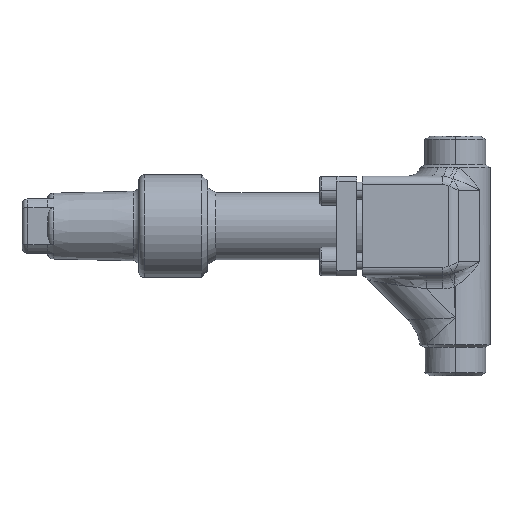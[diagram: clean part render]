
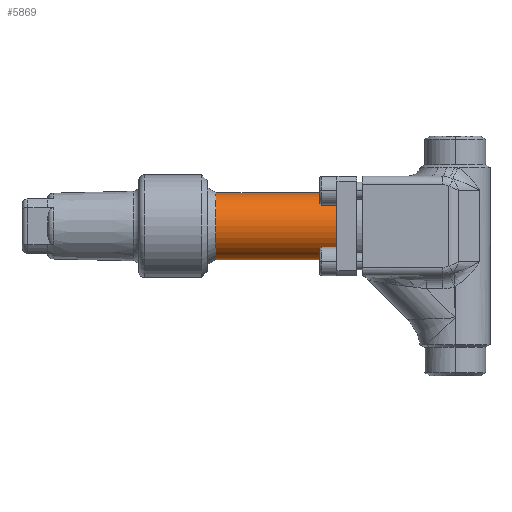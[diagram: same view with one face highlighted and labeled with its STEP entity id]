
A CAD part, left-side view. The second image highlights one B-rep face of the part: STEP entity #5869.
In plain terms, the highlighted cylindrical face has radius 11.75 mm (diameter 23.5 mm), a partial arc.
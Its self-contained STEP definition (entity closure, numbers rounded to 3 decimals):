
#949 = ORIENTED_EDGE ( 'NONE', *, *, #16213, .F. ) ;
#17911 = EDGE_CURVE ( 'NONE', #10036, #7913, #5764, .T. ) ;
#1811 = EDGE_LOOP ( 'NONE', ( #5868, #2447, #3248, #949 ) ) ;
#18209 = CARTESIAN_POINT ( 'NONE',  ( -11.75, 0., -49.469 ) ) ;
#2428 = VERTEX_POINT ( 'NONE', #18209 ) ;
#2447 = ORIENTED_EDGE ( 'NONE', *, *, #10282, .T. ) ;
#3248 = ORIENTED_EDGE ( 'NONE', *, *, #17911, .T. ) ;
#3568 = CARTESIAN_POINT ( 'NONE',  ( 11.75, 0., -49.469 ) ) ;
#5764 = CIRCLE ( 'NONE', #5765, 11.75 ) ;
#5765 = AXIS2_PLACEMENT_3D ( 'NONE', #5766, #5767, #5768 ) ;
#5766 = CARTESIAN_POINT ( 'NONE',  ( 0., 0., -7.2 ) ) ;
#5767 = DIRECTION ( 'NONE',  ( 0., 0., -1. ) ) ;
#5768 = DIRECTION ( 'NONE',  ( 1., 0., 0. ) ) ;
#5868 = ORIENTED_EDGE ( 'NONE', *, *, #9480, .F. ) ;
#5869 = ADVANCED_FACE ( 'NONE', ( #9576 ), #9594, .T. ) ;
#7913 = VERTEX_POINT ( 'NONE', #14943 ) ;
#8506 = VERTEX_POINT ( 'NONE', #3568 ) ;
#9480 = EDGE_CURVE ( 'NONE', #2428, #8506, #15323, .T. ) ;
#9576 = FACE_OUTER_BOUND ( 'NONE', #1811, .T. ) ;
#9594 = CYLINDRICAL_SURFACE ( 'NONE', #9595, 11.75 ) ;
#9595 = AXIS2_PLACEMENT_3D ( 'NONE', #9596, #9597, #9598 ) ;
#9596 = CARTESIAN_POINT ( 'NONE',  ( 0., 0., -52.5 ) ) ;
#9597 = DIRECTION ( 'NONE',  ( 0., 0., 1. ) ) ;
#9598 = DIRECTION ( 'NONE',  ( 1., 0., 0. ) ) ;
#10036 = VERTEX_POINT ( 'NONE', #15877 ) ;
#10282 = EDGE_CURVE ( 'NONE', #2428, #10036, #16067, .T. ) ;
#13535 = LINE ( 'NONE', #13536, #13537 ) ;
#13536 = CARTESIAN_POINT ( 'NONE',  ( 11.75, 0., -52.5 ) ) ;
#13537 = VECTOR ( 'NONE', #13538, 1000. ) ;
#13538 = DIRECTION ( 'NONE',  ( 0., 0., 1. ) ) ;
#14943 = CARTESIAN_POINT ( 'NONE',  ( 11.75, 0., -7.2 ) ) ;
#15323 = CIRCLE ( 'NONE', #15324, 11.75 ) ;
#15324 = AXIS2_PLACEMENT_3D ( 'NONE', #15325, #15326, #15327 ) ;
#15325 = CARTESIAN_POINT ( 'NONE',  ( 0., 0., -49.469 ) ) ;
#15326 = DIRECTION ( 'NONE',  ( 0., 0., -1. ) ) ;
#15327 = DIRECTION ( 'NONE',  ( -1., 0., 0. ) ) ;
#15877 = CARTESIAN_POINT ( 'NONE',  ( -11.75, 0., -7.2 ) ) ;
#16067 = LINE ( 'NONE', #16068, #16069 ) ;
#16068 = CARTESIAN_POINT ( 'NONE',  ( -11.75, 0., -52.5 ) ) ;
#16069 = VECTOR ( 'NONE', #16070, 1000. ) ;
#16070 = DIRECTION ( 'NONE',  ( 0., 0., 1. ) ) ;
#16213 = EDGE_CURVE ( 'NONE', #8506, #7913, #13535, .T. ) ;
